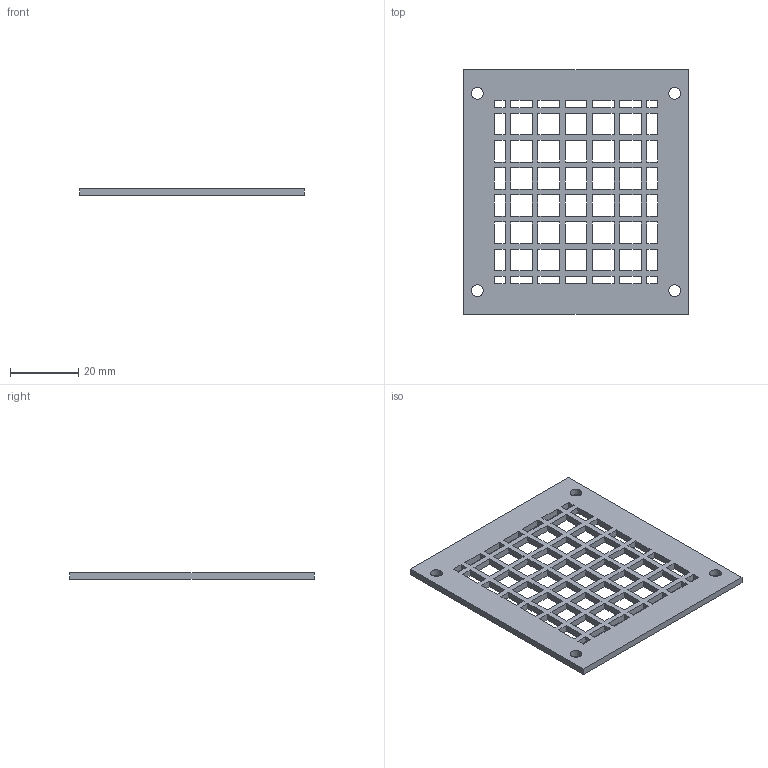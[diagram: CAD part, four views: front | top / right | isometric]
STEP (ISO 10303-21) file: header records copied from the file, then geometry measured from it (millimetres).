
FILE_DESCRIPTION(('Open CASCADE Model'),'2;1');
FILE_NAME('Open CASCADE Shape Model','2026-10-02T07:52:38',('Author'),( 'Open CASCADE'),'Open CASCADE STEP processor 7.8','Open CASCADE 7.8' ,'Unknown');
FILE_SCHEMA(('AUTOMOTIVE_DESIGN { 1 0 10303 214 1 1 1 1 }'));
Length unit declared in the file: millimetre
Products named in the file (1): Open CASCADE STEP translator 7.8 6
Bounding box: 66 x 72 x 2 mm (x, y, z)
Volume: 6144.3 mm3; surface area: 9209 mm2
Topology: 1 solids, 1 shells, 234 faces, 696 edges, 464 vertices
Faces by surface type: plane 230, cylinder 4
Full cylindrical faces by diameter (mm): 3.4 x4
Entity records: 16486 total; most frequent: CARTESIAN_POINT 3287, DIRECTION 2066, LINE 1572, VECTOR 1572, ORIENTED_EDGE 1392, PCURVE 1392, DEFINITIONAL_REPRESENTATION 1392, EDGE_CURVE 696
